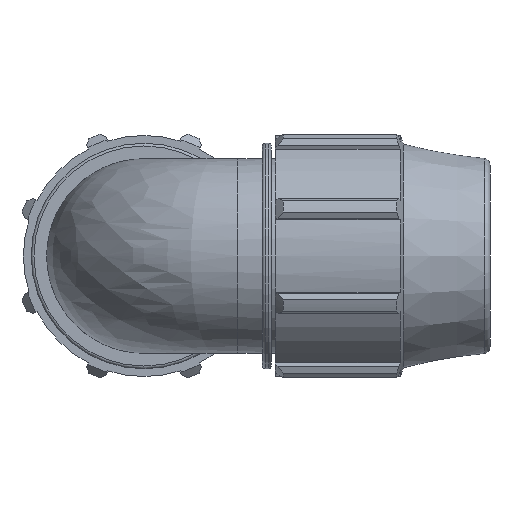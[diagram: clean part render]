
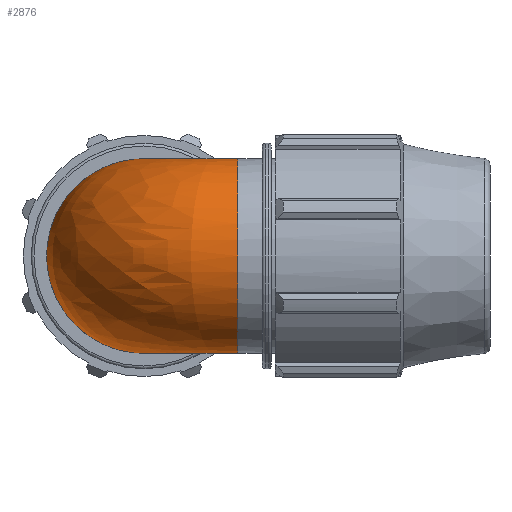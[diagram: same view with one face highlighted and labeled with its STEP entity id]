
A CAD part, front view. The second image highlights one B-rep face of the part: STEP entity #2876.
In plain terms, the highlighted free-form (B-spline) face has degree [2, 2] with [9, 3] control points.
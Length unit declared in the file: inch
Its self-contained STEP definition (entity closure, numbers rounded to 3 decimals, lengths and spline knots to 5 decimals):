
#560=(
BOUNDED_SURFACE()
B_SPLINE_SURFACE(2,2,((#4199,#4200,#4201),(#4202,#4203,#4204),(#4205,#4206,
#4207),(#4208,#4209,#4210),(#4211,#4212,#4213),(#4214,#4215,#4216),(#4217,
#4218,#4219),(#4220,#4221,#4222),(#4223,#4224,#4225)),.UNSPECIFIED.,.F.,
 .F.,.F.)
B_SPLINE_SURFACE_WITH_KNOTS((3,2,2,2,3),(3,3),(-2.87546,-1.43773,
0.,1.43773,2.87546),(-1.5708,0.),
 .UNSPECIFIED.)
GEOMETRIC_REPRESENTATION_ITEM()
RATIONAL_B_SPLINE_SURFACE(((1.,0.707,1.),(0.753,0.532,
0.753),(1.,0.707,1.),(0.753,0.532,
0.753),(1.,0.707,1.),(0.753,0.532,
0.753),(1.,0.707,1.),(0.753,0.532,
0.753),(1.,0.707,1.)))
REPRESENTATION_ITEM('')
SURFACE()
);
#583=FACE_OUTER_BOUND('',#733,.T.);
#733=EDGE_LOOP('',(#1794,#1795,#1796));
#897=CIRCLE('',#3053,1.66875);
#898=CIRCLE('',#3054,1.66875);
#899=CIRCLE('',#3055,1.66875);
#1056=VERTEX_POINT('',#4226);
#1057=VERTEX_POINT('',#4227);
#1058=VERTEX_POINT('',#4229);
#1355=EDGE_CURVE('',#1056,#1057,#897,.T.);
#1356=EDGE_CURVE('',#1058,#1056,#898,.T.);
#1357=EDGE_CURVE('',#1057,#1058,#899,.T.);
#1794=ORIENTED_EDGE('',*,*,#1355,.F.);
#1795=ORIENTED_EDGE('',*,*,#1356,.F.);
#1796=ORIENTED_EDGE('',*,*,#1357,.F.);
#2876=ADVANCED_FACE('',(#583),#560,.F.);
#3053=AXIS2_PLACEMENT_3D('',#4228,#3376,#3377);
#3054=AXIS2_PLACEMENT_3D('',#4230,#3378,#3379);
#3055=AXIS2_PLACEMENT_3D('',#4231,#3380,#3381);
#3376=DIRECTION('center_axis',(1.,0.,0.));
#3377=DIRECTION('ref_axis',(0.,0.,-1.));
#3378=DIRECTION('center_axis',(0.,1.,0.));
#3379=DIRECTION('ref_axis',(0.,0.,-1.));
#3380=DIRECTION('center_axis',(1.,0.,0.));
#3381=DIRECTION('ref_axis',(0.,0.,-1.));
#4199=CARTESIAN_POINT('Ctrl Pts',(1.61,1.61,0.43889));
#4200=CARTESIAN_POINT('Ctrl Pts',(1.61,1.61,0.43889));
#4201=CARTESIAN_POINT('Ctrl Pts',(1.61,1.61,0.43889));
#4202=CARTESIAN_POINT('Ctrl Pts',(1.61,1.22594,1.84774));
#4203=CARTESIAN_POINT('Ctrl Pts',(1.22594,1.22594,1.84774));
#4204=CARTESIAN_POINT('Ctrl Pts',(1.22594,1.61,1.84774));
#4205=CARTESIAN_POINT('Ctrl Pts',(1.61,-0.2214,1.654));
#4206=CARTESIAN_POINT('Ctrl Pts',(-0.2214,-0.2214,
1.654));
#4207=CARTESIAN_POINT('Ctrl Pts',(-0.2214,1.61,1.654));
#4208=CARTESIAN_POINT('Ctrl Pts',(1.61,-1.66875,1.46026));
#4209=CARTESIAN_POINT('Ctrl Pts',(-1.66875,-1.66875,1.46026));
#4210=CARTESIAN_POINT('Ctrl Pts',(-1.66875,1.61,1.46026));
#4211=CARTESIAN_POINT('Ctrl Pts',(1.61,-1.66875,0.));
#4212=CARTESIAN_POINT('Ctrl Pts',(-1.66875,-1.66875,0.));
#4213=CARTESIAN_POINT('Ctrl Pts',(-1.66875,1.61,0.));
#4214=CARTESIAN_POINT('Ctrl Pts',(1.61,-1.66875,-1.46026));
#4215=CARTESIAN_POINT('Ctrl Pts',(-1.66875,-1.66875,-1.46026));
#4216=CARTESIAN_POINT('Ctrl Pts',(-1.66875,1.61,-1.46026));
#4217=CARTESIAN_POINT('Ctrl Pts',(1.61,-0.2214,-1.654));
#4218=CARTESIAN_POINT('Ctrl Pts',(-0.2214,-0.2214,
-1.654));
#4219=CARTESIAN_POINT('Ctrl Pts',(-0.2214,1.61,-1.654));
#4220=CARTESIAN_POINT('Ctrl Pts',(1.61,1.22594,-1.84774));
#4221=CARTESIAN_POINT('Ctrl Pts',(1.22594,1.22594,-1.84774));
#4222=CARTESIAN_POINT('Ctrl Pts',(1.22594,1.61,-1.84774));
#4223=CARTESIAN_POINT('Ctrl Pts',(1.61,1.61,-0.43889));
#4224=CARTESIAN_POINT('Ctrl Pts',(1.61,1.61,-0.43889));
#4225=CARTESIAN_POINT('Ctrl Pts',(1.61,1.61,-0.43889));
#4226=CARTESIAN_POINT('',(1.61,1.61,0.43889));
#4227=CARTESIAN_POINT('',(1.61,-1.66875,0.));
#4228=CARTESIAN_POINT('Origin',(1.61,0.,0.));
#4229=CARTESIAN_POINT('',(1.61,1.61,-0.43889));
#4230=CARTESIAN_POINT('Origin',(0.,1.61,0.));
#4231=CARTESIAN_POINT('Origin',(1.61,0.,0.));
